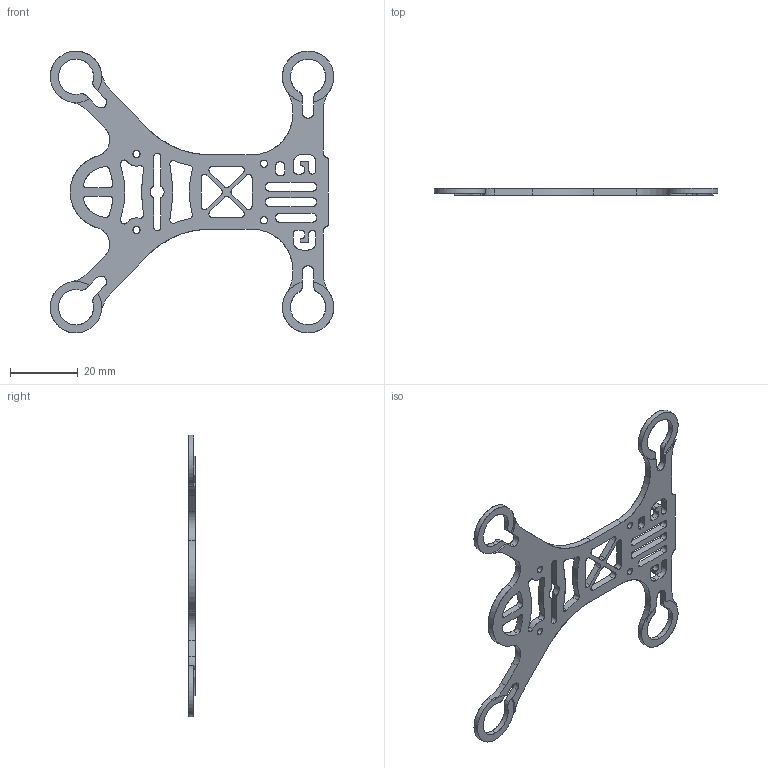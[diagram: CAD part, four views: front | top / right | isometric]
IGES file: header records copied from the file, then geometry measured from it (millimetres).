
Start section: SolidWorks IGES file using analytic representation for surfaces
Global section: file name: C:\Users\admin\Desktop\AA Temp\Quad\QX95\Frame PC.IGS; native system: SolidWorks 2014; preprocessor: SolidWorks 2014; author: admin; date: 170517.234330; units: millimetre
Bounding box: 83.67 x 2 x 83.2 mm (x, y, z)
Surface area: 6342.6 mm2 (no closed solid volume)
Topology: 0 solids, 0 shells, 241 faces, 3308 edges, 3308 vertices
Faces by surface type: revolution 160, bspline 81
